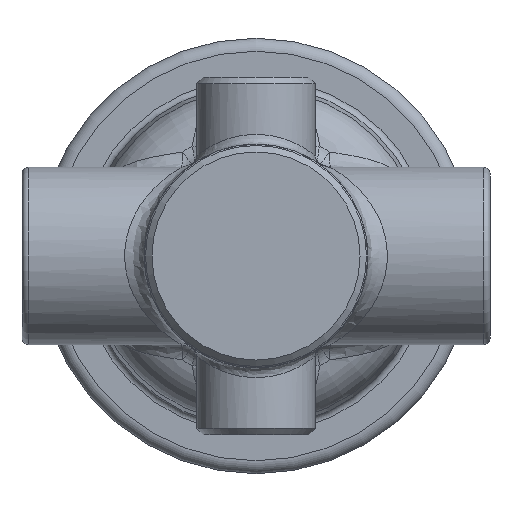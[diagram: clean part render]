
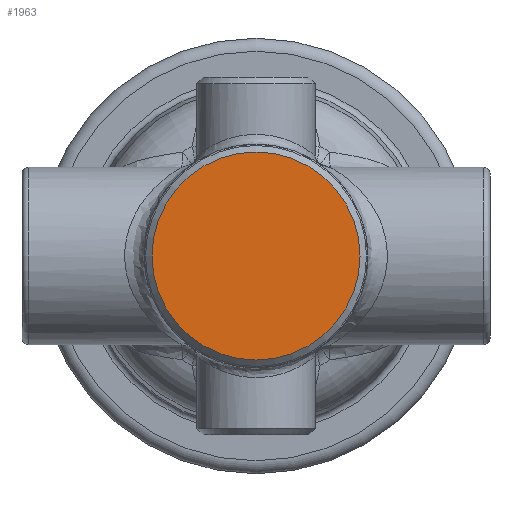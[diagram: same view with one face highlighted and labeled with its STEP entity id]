
A CAD part, front view. The second image highlights one B-rep face of the part: STEP entity #1963.
In plain terms, the highlighted planar face has unit normal (0, -1, 0).
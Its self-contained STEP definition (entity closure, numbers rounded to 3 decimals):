
#300=CIRCLE('',#2215,16.);
#438=FACE_OUTER_BOUND('',#571,.T.);
#571=EDGE_LOOP('',(#1749));
#909=VERTEX_POINT('',#8270);
#1193=EDGE_CURVE('',#909,#909,#300,.T.);
#1749=ORIENTED_EDGE('',*,*,#1193,.F.);
#1852=PLANE('',#2218);
#1963=ADVANCED_FACE('',(#438),#1852,.T.);
#2215=AXIS2_PLACEMENT_3D('',#8272,#2743,#2744);
#2218=AXIS2_PLACEMENT_3D('',#8276,#2750,#2751);
#2743=DIRECTION('center_axis',(0.,1.,0.));
#2744=DIRECTION('ref_axis',(-1.,0.,0.));
#2750=DIRECTION('center_axis',(0.,-1.,0.));
#2751=DIRECTION('ref_axis',(0.,0.,-1.));
#8270=CARTESIAN_POINT('',(16.,0.,0.));
#8272=CARTESIAN_POINT('Origin',(0.,0.,0.));
#8276=CARTESIAN_POINT('Origin',(8.5,0.,0.));
